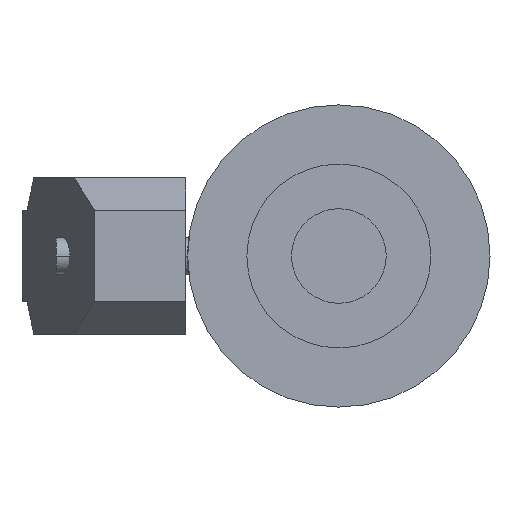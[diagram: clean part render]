
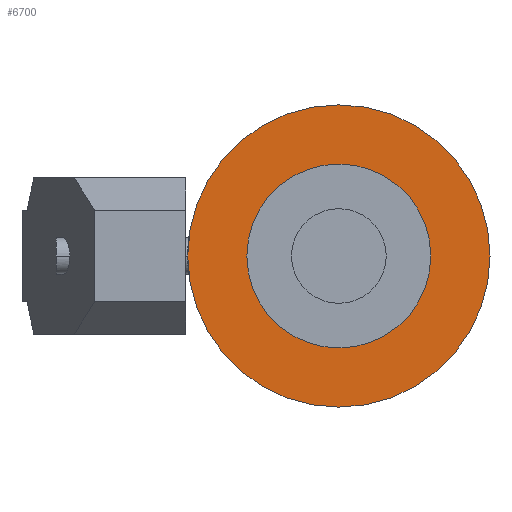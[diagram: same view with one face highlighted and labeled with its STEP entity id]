
A CAD part, left-side view. The second image highlights one B-rep face of the part: STEP entity #6700.
In plain terms, the highlighted planar face has unit normal (-1, 0, 0).
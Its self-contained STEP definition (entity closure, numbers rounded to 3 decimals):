
#3440=CARTESIAN_POINT('',(-284.497,138.705,
0.));
#3450=VERTEX_POINT('',#3440);
#3480=CARTESIAN_POINT('',(-284.497,180.205,0.));
#3490=DIRECTION('',(1.,0.,0.));
#3500=DIRECTION('',(0.,1.,0.));
#3510=AXIS2_PLACEMENT_3D('',#3480,#3490,#3500);
#3520=CIRCLE('',#3510,41.5);
#3530=CARTESIAN_POINT('',(-284.497,221.705,0.));
#3540=VERTEX_POINT('',#3530);
#3550=EDGE_CURVE('',#3540,#3450,#3520,.T.);
#6450=CARTESIAN_POINT('',(-284.497,219.355,0.));
#6460=DIRECTION('',(1.,0.,0.));
#6470=DIRECTION('',(0.,1.,0.));
#6480=AXIS2_PLACEMENT_3D('',#6450,#6460,#6470);
#6490=PLANE('',#6480);
#6500=CARTESIAN_POINT('',(-284.497,180.205,0.));
#6510=DIRECTION('',(1.,0.,0.));
#6520=DIRECTION('',(0.,1.,0.));
#6530=AXIS2_PLACEMENT_3D('',#6500,#6510,#6520);
#6540=CIRCLE('',#6530,24.5);
#6550=CARTESIAN_POINT('',(-284.497,204.705,0.));
#6560=VERTEX_POINT('',#6550);
#6570=CARTESIAN_POINT('',(-284.497,155.705,0.));
#6580=VERTEX_POINT('',#6570);
#6590=EDGE_CURVE('',#6560,#6580,#6540,.T.);
#6600=ORIENTED_EDGE('',*,*,#6590,.T.);
#6610=EDGE_CURVE('',#6580,#6560,#6540,.T.);
#6620=ORIENTED_EDGE('',*,*,#6610,.T.);
#6630=EDGE_LOOP('',(#6620,#6600));
#6640=FACE_BOUND('',#6630,.T.);
#6650=ORIENTED_EDGE('',*,*,#3550,.F.);
#6660=EDGE_CURVE('',#3450,#3540,#3520,.T.);
#6670=ORIENTED_EDGE('',*,*,#6660,.F.);
#6680=EDGE_LOOP('',(#6670,#6650));
#6690=FACE_OUTER_BOUND('',#6680,.T.);
#6700=ADVANCED_FACE('',(#6640,#6690),#6490,.F.);
